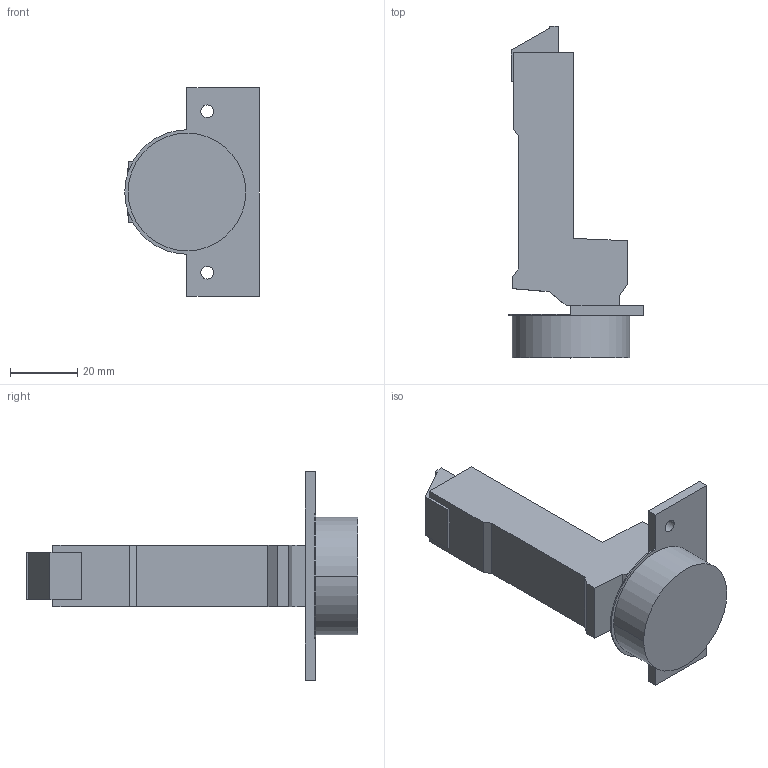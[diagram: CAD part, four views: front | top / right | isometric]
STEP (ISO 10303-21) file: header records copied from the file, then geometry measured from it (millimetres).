
FILE_DESCRIPTION (( 'STEP AP214' ), '1' );
FILE_NAME ('Scharnier TS Click-on 120° S_BB, K19.step', '2010-12-06T09:59:10', ( 'grass' ), ( '' ), 'SwSTEP 2.0', 'SolidWorks 2010', '' );
FILE_SCHEMA (( 'AUTOMOTIVE_DESIGN' ));
Length unit declared in the file: millimetre
Products named in the file (1): Scharnier TS Click-on 120° S_BB, K19
Bounding box: 40 x 98.7 x 62 mm (x, y, z)
Volume: 44935.5 mm3; surface area: 12481.9 mm2
Topology: 1 solids, 1 shells, 51 faces, 133 edges, 88 vertices
Faces by surface type: plane 37, cylinder 14
Entity records: 1601 total; most frequent: CARTESIAN_POINT 273, ORIENTED_EDGE 266, DIRECTION 265, EDGE_CURVE 133, VECTOR 105, LINE 105, VERTEX_POINT 88, AXIS2_PLACEMENT_3D 80
